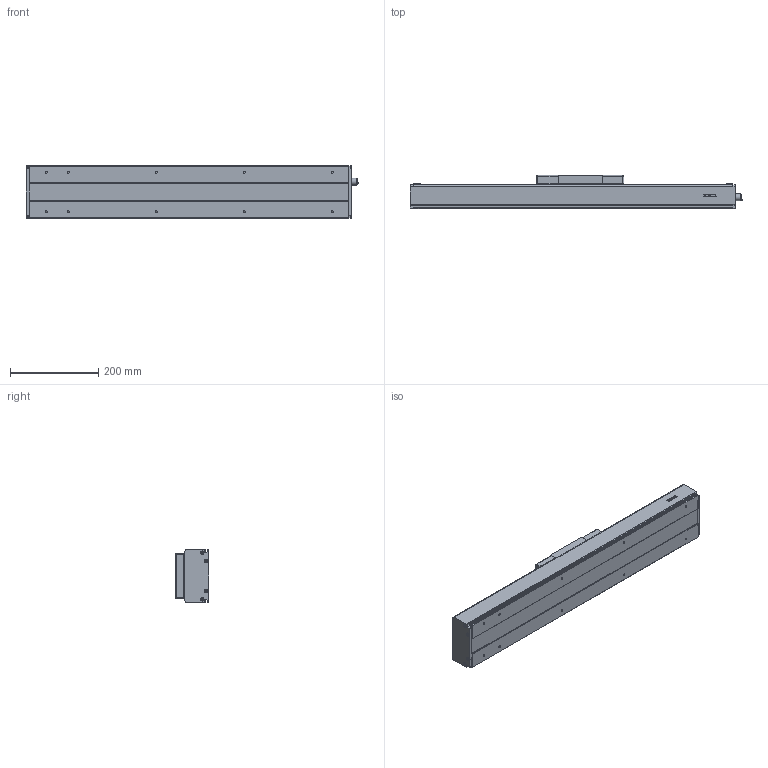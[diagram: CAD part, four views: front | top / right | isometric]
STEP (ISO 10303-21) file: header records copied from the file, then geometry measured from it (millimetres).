
FILE_DESCRIPTION(/* description */ (''),/* implementation_level */ '2;1');
FILE_NAME(/* name */ 'D:\混合母檔20191031\混和母檔\混和母檔\bin\Debug\Download\3D\KS120-10C-250AFI\KS120-10C-250AFI.stp',/* time_stamp */ '2019-11-04T15:10:27+08:00',/* author */ ('user'),/* organization */ (''),/* preprocessor_version */ 'ST-DEVELOPER v16.13',/* originating_system */ 'Autodesk Inventor 2018',/* authorisation */ '');
FILE_SCHEMA (('AUTOMOTIVE_DESIGN { 1 0 10303 214 3 1 1 }'));
Length unit declared in the file: millimetre
Products named in the file (3): KS120-10C-250AFI; KS120-FI; KS120-SL
Assembly tree (2 placements, depth 2):
  KS120-10C-250AFI
    KS120-FI
    KS120-SL
Bounding box: 754.5 x 77 x 120 mm (x, y, z)
Volume: 1957364.9 mm3; surface area: 620396.5 mm2
Topology: 4 solids, 11 shells, 991 faces, 2539 edges, 1638 vertices
Faces by surface type: plane 575, cylinder 184, bspline 136, cone 78, torus 14, sphere 4
Full cylindrical faces by diameter (mm): 2.459 x6, 3.242 x4, 4 x32, 4.3 x4, 4.5 x12, 4.917 x10, 6 x6, 7 x4, 8 x9, 8.4 x12, 10.437 x1, 12 x2, 14 x1, 15 x1, 15.538 x1, 19 x1, 28 x1, 30 x1
Entity records: 32873 total; most frequent: CARTESIAN_POINT 10590, ORIENTED_EDGE 4538, DIRECTION 4145, EDGE_CURVE 2267, VERTEX_POINT 1558, LINE 1525, VECTOR 1525, AXIS2_PLACEMENT_3D 1310
